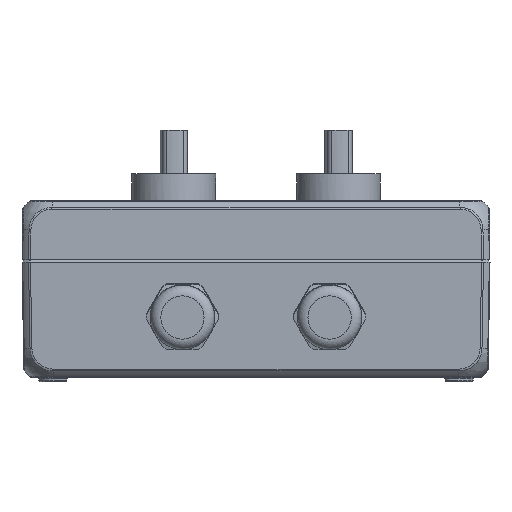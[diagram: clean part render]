
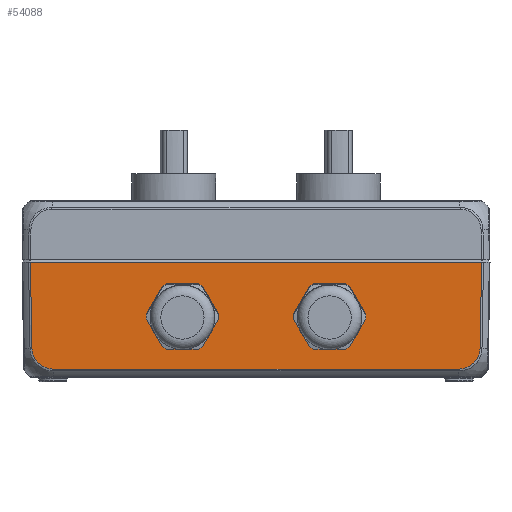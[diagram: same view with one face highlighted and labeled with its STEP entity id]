
A CAD part, front view. The second image highlights one B-rep face of the part: STEP entity #54088.
In plain terms, the highlighted planar face has unit normal (0, -1, -0.018).
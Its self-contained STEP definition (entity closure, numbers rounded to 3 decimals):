
#3018=PLANE('',#57843);
#5454=FACE_OUTER_BOUND('',#8640,.T.);
#8640=EDGE_LOOP('',(#38645,#38646,#38647,#38648,#38649,#38650));
#11876=LINE('',#89262,#16319);
#12046=LINE('',#102304,#16489);
#12049=LINE('',#102542,#16492);
#12051=LINE('',#102776,#16494);
#16319=VECTOR('',#63493,10.);
#16489=VECTOR('',#64537,10.);
#16492=VECTOR('',#64546,10.);
#16494=VECTOR('',#64552,10.);
#20233=B_SPLINE_CURVE_WITH_KNOTS('',3,(#102461,#102462,#102463,#102464,
#102465,#102466,#102467,#102468,#102469,#102470,#102471,#102472,#102473,
#102474,#102475,#102476,#102477,#102478,#102479,#102480,#102481,#102482,
#102483,#102484,#102485,#102486,#102487,#102488,#102489,#102490,#102491,
#102492,#102493,#102494,#102495,#102496,#102497,#102498),.UNSPECIFIED.,
 .F.,.F.,(4,2,2,2,2,2,2,2,2,2,2,2,2,2,2,2,1,1,2,4),(0.,
0.046,0.059,0.073,0.075,
0.172,0.174,0.175,0.285,
0.422,0.481,0.658,0.801,
0.817,0.826,0.971,1.038,
1.072,1.105,1.107),.UNSPECIFIED.);
#20235=B_SPLINE_CURVE_WITH_KNOTS('',3,(#102698,#102699,#102700,#102701,
#102702,#102703,#102704,#102705,#102706,#102707,#102708,#102709,#102710,
#102711,#102712,#102713,#102714,#102715,#102716,#102717,#102718,#102719,
#102720,#102721,#102722,#102723,#102724,#102725,#102726,#102727,#102728,
#102729,#102730,#102731,#102732,#102733,#102734,#102735),.UNSPECIFIED.,
 .F.,.F.,(4,2,2,2,2,2,2,2,2,2,2,2,2,2,2,2,2,2,4),(0.,
0.002,0.065,0.138,0.279,
0.29,0.31,0.452,0.526,
0.629,0.689,0.825,0.94,
0.941,1.037,1.042,1.053,1.067,
1.112),.UNSPECIFIED.);
#22444=VERTEX_POINT('',#89248);
#22446=VERTEX_POINT('',#89260);
#22728=VERTEX_POINT('',#102302);
#22730=VERTEX_POINT('',#102459);
#22732=VERTEX_POINT('',#102540);
#22734=VERTEX_POINT('',#102696);
#28040=EDGE_CURVE('',#22444,#22446,#11876,.T.);
#28596=EDGE_CURVE('',#22728,#22446,#12046,.T.);
#28599=EDGE_CURVE('',#22730,#22728,#20233,.T.);
#28603=EDGE_CURVE('',#22732,#22730,#12049,.T.);
#28605=EDGE_CURVE('',#22734,#22732,#20235,.T.);
#28608=EDGE_CURVE('',#22444,#22734,#12051,.T.);
#38645=ORIENTED_EDGE('',*,*,#28596,.F.);
#38646=ORIENTED_EDGE('',*,*,#28599,.F.);
#38647=ORIENTED_EDGE('',*,*,#28603,.F.);
#38648=ORIENTED_EDGE('',*,*,#28605,.F.);
#38649=ORIENTED_EDGE('',*,*,#28608,.F.);
#38650=ORIENTED_EDGE('',*,*,#28040,.T.);
#54088=ADVANCED_FACE('',(#5454),#3018,.T.);
#57843=AXIS2_PLACEMENT_3D('',#102777,#64553,#64554);
#63493=DIRECTION('',(-1.,0.,0.));
#64537=DIRECTION('',(-0.017,-0.017,1.));
#64546=DIRECTION('',(-1.,0.,0.));
#64552=DIRECTION('',(-0.017,0.017,-1.));
#64553=DIRECTION('center_axis',(0.,-1.,-0.017));
#64554=DIRECTION('ref_axis',(-1.,0.,0.));
#89248=CARTESIAN_POINT('',(76.647,-43.,-0.8));
#89260=CARTESIAN_POINT('',(-76.647,-43.,-0.8));
#89262=CARTESIAN_POINT('',(31.,-43.,-0.8));
#102302=CARTESIAN_POINT('',(-76.135,-42.488,-30.126));
#102304=CARTESIAN_POINT('',(-76.64,-42.994,-1.161));
#102459=CARTESIAN_POINT('',(-68.97,-42.365,-37.153));
#102461=CARTESIAN_POINT('Ctrl Pts',(-68.97,-42.365,
-37.153));
#102462=CARTESIAN_POINT('Ctrl Pts',(-69.124,-42.365,
-37.153));
#102463=CARTESIAN_POINT('Ctrl Pts',(-69.277,-42.365,
-37.151));
#102464=CARTESIAN_POINT('Ctrl Pts',(-69.474,-42.366,
-37.139));
#102465=CARTESIAN_POINT('Ctrl Pts',(-69.517,-42.366,
-37.136));
#102466=CARTESIAN_POINT('Ctrl Pts',(-69.607,-42.366,
-37.128));
#102467=CARTESIAN_POINT('Ctrl Pts',(-69.653,-42.366,
-37.124));
#102468=CARTESIAN_POINT('Ctrl Pts',(-69.706,-42.366,
-37.119));
#102469=CARTESIAN_POINT('Ctrl Pts',(-69.714,-42.366,
-37.118));
#102470=CARTESIAN_POINT('Ctrl Pts',(-70.042,-42.367,
-37.084));
#102471=CARTESIAN_POINT('Ctrl Pts',(-70.361,-42.368,
-37.027));
#102472=CARTESIAN_POINT('Ctrl Pts',(-70.68,-42.369,
-36.949));
#102473=CARTESIAN_POINT('Ctrl Pts',(-70.686,-42.369,
-36.947));
#102474=CARTESIAN_POINT('Ctrl Pts',(-70.696,-42.369,
-36.945));
#102475=CARTESIAN_POINT('Ctrl Pts',(-70.7,-42.369,
-36.944));
#102476=CARTESIAN_POINT('Ctrl Pts',(-71.061,-42.371,
-36.853));
#102477=CARTESIAN_POINT('Ctrl Pts',(-71.41,-42.373,
-36.736));
#102478=CARTESIAN_POINT('Ctrl Pts',(-72.169,-42.378,
-36.415));
#102479=CARTESIAN_POINT('Ctrl Pts',(-72.576,-42.382,
-36.196));
#102480=CARTESIAN_POINT('Ctrl Pts',(-73.125,-42.389,
-35.828));
#102481=CARTESIAN_POINT('Ctrl Pts',(-73.287,-42.391,
-35.71));
#102482=CARTESIAN_POINT('Ctrl Pts',(-73.907,-42.399,
-35.214));
#102483=CARTESIAN_POINT('Ctrl Pts',(-74.32,-42.407,
-34.789));
#102484=CARTESIAN_POINT('Ctrl Pts',(-74.974,-42.422,
-33.933));
#102485=CARTESIAN_POINT('Ctrl Pts',(-75.227,-42.429,
-33.52));
#102486=CARTESIAN_POINT('Ctrl Pts',(-75.457,-42.437,
-33.041));
#102487=CARTESIAN_POINT('Ctrl Pts',(-75.48,-42.438,
-32.992));
#102488=CARTESIAN_POINT('Ctrl Pts',(-75.515,-42.439,
-32.915));
#102489=CARTESIAN_POINT('Ctrl Pts',(-75.527,-42.44,
-32.887));
#102490=CARTESIAN_POINT('Ctrl Pts',(-75.732,-42.448,
-32.418));
#102491=CARTESIAN_POINT('Ctrl Pts',(-75.882,-42.456,-31.953));
#102492=CARTESIAN_POINT('Ctrl Pts',(-76.03,-42.468,
-31.259));
#102493=CARTESIAN_POINT('Ctrl Pts',(-76.088,-42.474,
-30.926));
#102494=CARTESIAN_POINT('Ctrl Pts',(-76.128,-42.482,
-30.48));
#102495=CARTESIAN_POINT('Ctrl Pts',(-76.133,-42.486,
-30.256));
#102496=CARTESIAN_POINT('Ctrl Pts',(-76.135,-42.488,
-30.138));
#102497=CARTESIAN_POINT('Ctrl Pts',(-76.135,-42.488,
-30.132));
#102498=CARTESIAN_POINT('Ctrl Pts',(-76.135,-42.488,
-30.126));
#102540=CARTESIAN_POINT('',(68.97,-42.365,-37.153));
#102542=CARTESIAN_POINT('',(0.,-42.365,-37.153));
#102696=CARTESIAN_POINT('',(76.135,-42.488,-30.126));
#102698=CARTESIAN_POINT('Ctrl Pts',(76.135,-42.488,
-30.126));
#102699=CARTESIAN_POINT('Ctrl Pts',(76.135,-42.488,
-30.131));
#102700=CARTESIAN_POINT('Ctrl Pts',(76.134,-42.488,-30.137));
#102701=CARTESIAN_POINT('Ctrl Pts',(76.13,-42.484,
-30.353));
#102702=CARTESIAN_POINT('Ctrl Pts',(76.121,-42.48,
-30.564));
#102703=CARTESIAN_POINT('Ctrl Pts',(76.072,-42.473,
-31.014));
#102704=CARTESIAN_POINT('Ctrl Pts',(76.033,-42.468,
-31.254));
#102705=CARTESIAN_POINT('Ctrl Pts',(75.883,-42.456,
-31.953));
#102706=CARTESIAN_POINT('Ctrl Pts',(75.737,-42.448,
-32.405));
#102707=CARTESIAN_POINT('Ctrl Pts',(75.535,-42.44,-32.87));
#102708=CARTESIAN_POINT('Ctrl Pts',(75.521,-42.44,
-32.901));
#102709=CARTESIAN_POINT('Ctrl Pts',(75.478,-42.438,
-32.995));
#102710=CARTESIAN_POINT('Ctrl Pts',(75.449,-42.437,
-33.057));
#102711=CARTESIAN_POINT('Ctrl Pts',(75.211,-42.428,-33.544));
#102712=CARTESIAN_POINT('Ctrl Pts',(74.962,-42.421,-33.949));
#102713=CARTESIAN_POINT('Ctrl Pts',(74.527,-42.411,
-34.519));
#102714=CARTESIAN_POINT('Ctrl Pts',(74.368,-42.408,
-34.706));
#102715=CARTESIAN_POINT('Ctrl Pts',(73.965,-42.401,
-35.135));
#102716=CARTESIAN_POINT('Ctrl Pts',(73.711,-42.397,
-35.369));
#102717=CARTESIAN_POINT('Ctrl Pts',(73.285,-42.391,
-35.711));
#102718=CARTESIAN_POINT('Ctrl Pts',(73.122,-42.389,
-35.83));
#102719=CARTESIAN_POINT('Ctrl Pts',(72.579,-42.382,
-36.195));
#102720=CARTESIAN_POINT('Ctrl Pts',(72.179,-42.378,-36.411));
#102721=CARTESIAN_POINT('Ctrl Pts',(71.41,-42.373,
-36.736));
#102722=CARTESIAN_POINT('Ctrl Pts',(71.047,-42.371,
-36.856));
#102723=CARTESIAN_POINT('Ctrl Pts',(70.673,-42.369,-36.949));
#102724=CARTESIAN_POINT('Ctrl Pts',(70.668,-42.369,
-36.95));
#102725=CARTESIAN_POINT('Ctrl Pts',(70.355,-42.368,
-37.026));
#102726=CARTESIAN_POINT('Ctrl Pts',(70.04,-42.367,
-37.082));
#102727=CARTESIAN_POINT('Ctrl Pts',(69.705,-42.366,
-37.118));
#102728=CARTESIAN_POINT('Ctrl Pts',(69.686,-42.366,
-37.12));
#102729=CARTESIAN_POINT('Ctrl Pts',(69.631,-42.366,
-37.125));
#102730=CARTESIAN_POINT('Ctrl Pts',(69.594,-42.366,
-37.129));
#102731=CARTESIAN_POINT('Ctrl Pts',(69.512,-42.366,
-37.135));
#102732=CARTESIAN_POINT('Ctrl Pts',(69.468,-42.366,
-37.139));
#102733=CARTESIAN_POINT('Ctrl Pts',(69.272,-42.365,
-37.151));
#102734=CARTESIAN_POINT('Ctrl Pts',(69.121,-42.365,
-37.153));
#102735=CARTESIAN_POINT('Ctrl Pts',(68.97,-42.365,
-37.153));
#102776=CARTESIAN_POINT('',(76.64,-42.994,-1.161));
#102777=CARTESIAN_POINT('Origin',(62.,-43.014,0.));
